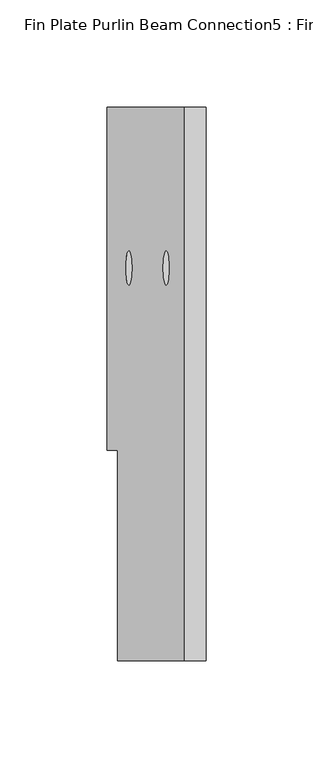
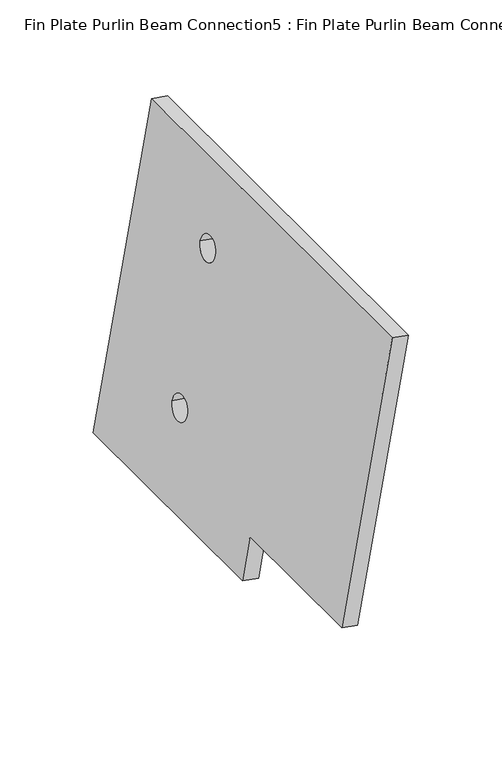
"""IFC4 building model written with IfcOpenShell, lengths in millimetres: proxy geometry, Fin Plate Purlin Beam Connection5 : Fin Plate Purlin Beam Connection."""

from ifc_helpers import new_model, si_unit, point, frame, frame_2d, origin, place, context, project, spatial, polyline, circle_curve, trimmed, segment, composite_curve, outline, extrude, source, transform, mapped, element, save


def fin_plate_purlin_beam_connection5_fin_plate_purlin_beam_ecca5aeb(model_context):
    return source(origin(), model_context, "Body", "SweptSolid", [
        extrude(outline(polyline([(181.2383863, 0.0), (181.2383863, -98.2), (208.9560484, -98.2), (208.9560484, -258.2), (0.0, -258.2), (0.0, 0.0), (181.2383863, 0.0)]), holes=[composite_curve([segment(trimmed(circle_curve(frame_2d((50.0000001, -183.2)), 8.0), [point((50.0000001, -175.2))], [point((50.0000001, -191.2))], True, "CARTESIAN"), True, "CONTINUOUS"), segment(trimmed(circle_curve(frame_2d((50.0000001, -183.2)), 8.0), [point((50.0000001, -191.2))], [point((50.0000001, -175.2))], True, "CARTESIAN"), True, "CONTINUOUS")], self_intersect=False), composite_curve([segment(trimmed(circle_curve(frame_2d((150.0000001, -183.2)), 8.0), [point((150.0000001, -175.2))], [point((150.0000001, -191.2))], True, "CARTESIAN"), True, "CONTINUOUS"), segment(trimmed(circle_curve(frame_2d((150.0000001, -183.2)), 8.0), [point((150.0000001, -191.2))], [point((150.0000001, -175.2))], True, "CARTESIAN"), True, "CONTINUOUS")], self_intersect=False)]), frame((-31679.4969859, 11055.4549517, 3413.6888089), z_axis=(-0.9848077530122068, 0.0, 0.17364817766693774), x_axis=(-0.17364817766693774, 0.0, -0.9848077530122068)), (0.0, 0.0, 1.0), 10.0),
    ])


if __name__ == "__main__":
    model = new_model("IFC4")
    model_context = context("Model", 3, world=origin())
    ifc_project = project(units=[si_unit("LENGTHUNIT", "METRE", prefix="MILLI")], contexts=[model_context])
    site = spatial("IfcSite", under=ifc_project)
    building = spatial("IfcBuilding", under=site)
    placement = place(None, origin())
    fin_plate_purlin_beam_connection5_fin_plate_purlin_beam_shape = fin_plate_purlin_beam_connection5_fin_plate_purlin_beam_ecca5aeb(model_context)
    element("IfcBuildingElementProxy", 1, Name="Fin Plate Purlin Beam Connection5 : Fin Plate Purlin Beam Connection", ObjectType="Fin Plate Purlin Beam Connection5 : Fin Plate Purlin Beam Connection", at=placement, inside=building, context=model_context, shape_type="MappedRepresentation", body=[
        mapped(fin_plate_purlin_beam_connection5_fin_plate_purlin_beam_shape, transform((0.0, 0.0, 0.0), x_axis=(1.0, 0.0, 0.0), y_axis=(0.0, 1.0, 0.0), z_axis=(0.0, 0.0, 1.0))),
    ])
    save(model, "model.ifc")
